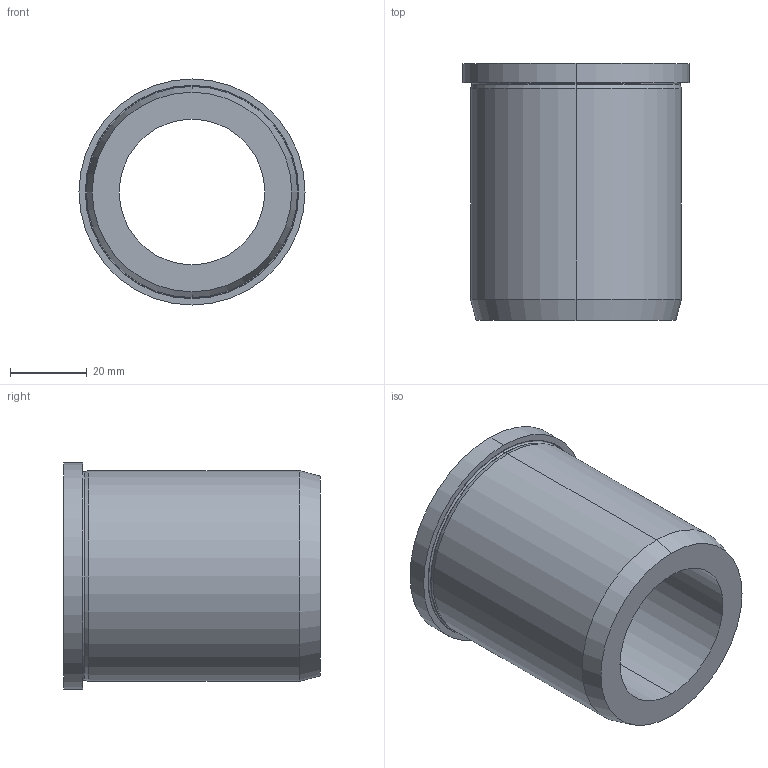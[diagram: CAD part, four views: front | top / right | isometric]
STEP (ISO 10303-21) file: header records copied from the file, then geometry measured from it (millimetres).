
FILE_DESCRIPTION (( 'STEP AP214' ), '1' );
FILE_NAME ('172-B38-67-A.step', '2024-10-17T05:27:43', ( '' ), ( '' ), 'SwSTEP 2.0', 'SolidWorks 2022', '' );
FILE_SCHEMA (( 'AUTOMOTIVE_DESIGN' ));
Length unit declared in the file: millimetre
Products named in the file (1): 172-B38-67-A
Bounding box: 59 x 67 x 59 mm (x, y, z)
Volume: 84154.8 mm3; surface area: 22538.1 mm2
Topology: 1 solids, 1 shells, 21 faces, 42 edges, 24 vertices
Faces by surface type: torus 6, cone 6, cylinder 6, plane 3
Entity records: 632 total; most frequent: DIRECTION 116, CARTESIAN_POINT 88, ORIENTED_EDGE 84, AXIS2_PLACEMENT_3D 52, EDGE_CURVE 42, CIRCLE 30, VERTEX_POINT 24, EDGE_LOOP 24
